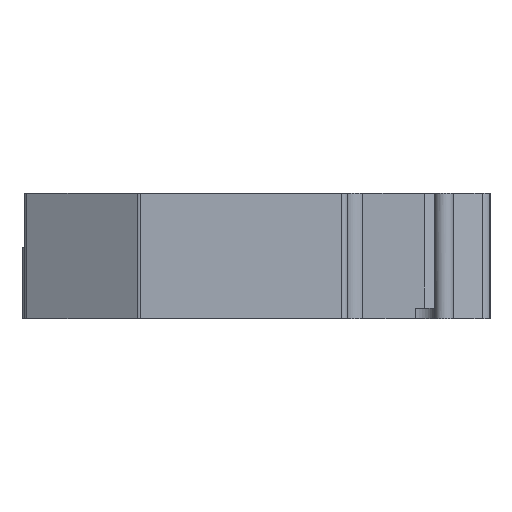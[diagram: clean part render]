
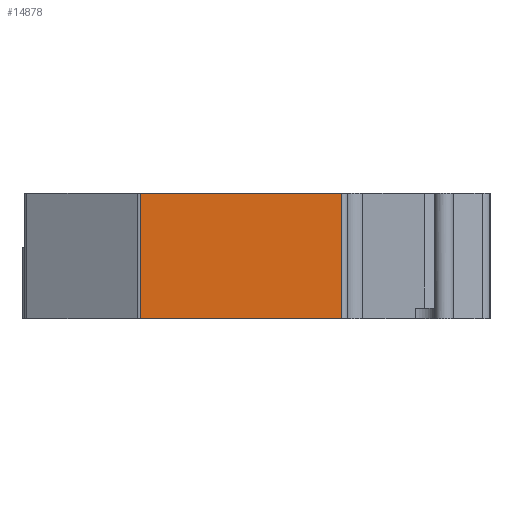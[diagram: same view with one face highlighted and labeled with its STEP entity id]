
A CAD part, left-side view. The second image highlights one B-rep face of the part: STEP entity #14878.
In plain terms, the highlighted planar face has unit normal (-1, 0, 0).
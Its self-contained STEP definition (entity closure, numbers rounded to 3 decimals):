
#312 = VERTEX_POINT ( 'NONE', #10745 ) ;
#1611 = EDGE_CURVE ( 'NONE', #1730, #6298, #16754, .T. ) ;
#1730 = VERTEX_POINT ( 'NONE', #2367 ) ;
#2367 = CARTESIAN_POINT ( 'NONE',  ( -51.7, -11.134, 12. ) ) ;
#2561 = EDGE_LOOP ( 'NONE', ( #19989, #18713, #7397, #6781 ) ) ;
#2665 = LINE ( 'NONE', #24184, #20798 ) ;
#3014 = LINE ( 'NONE', #11150, #10138 ) ;
#3360 = DIRECTION ( 'NONE',  ( 0., -1., 0. ) ) ;
#3631 = CARTESIAN_POINT ( 'NONE',  ( -51.7, -11.134, 12. ) ) ;
#4948 = DIRECTION ( 'NONE',  ( 0., -1., 0. ) ) ;
#5667 = DIRECTION ( 'NONE',  ( 0., 0., -1. ) ) ;
#6298 = VERTEX_POINT ( 'NONE', #9382 ) ;
#6392 = CARTESIAN_POINT ( 'NONE',  ( -51.7, -11., 12. ) ) ;
#6768 = PLANE ( 'NONE',  #9045 ) ;
#6781 = ORIENTED_EDGE ( 'NONE', *, *, #1611, .T. ) ;
#7397 = ORIENTED_EDGE ( 'NONE', *, *, #11054, .F. ) ;
#9045 = AXIS2_PLACEMENT_3D ( 'NONE', #6392, #14886, #15071 ) ;
#9382 = CARTESIAN_POINT ( 'NONE',  ( -51.7, -11.134, 0. ) ) ;
#10138 = VECTOR ( 'NONE', #4948, 1000. ) ;
#10745 = CARTESIAN_POINT ( 'NONE',  ( -51.7, -30.5, 0. ) ) ;
#11054 = EDGE_CURVE ( 'NONE', #1730, #14254, #2665, .T. ) ;
#11150 = CARTESIAN_POINT ( 'NONE',  ( -51.7, -11., 0. ) ) ;
#11241 = VECTOR ( 'NONE', #5667, 1000. ) ;
#14254 = VERTEX_POINT ( 'NONE', #24206 ) ;
#14878 = ADVANCED_FACE ( 'NONE', ( #15225 ), #6768, .F. ) ;
#14886 = DIRECTION ( 'NONE',  ( 1., 0., 0. ) ) ;
#15071 = DIRECTION ( 'NONE',  ( 0., 1., 0. ) ) ;
#15101 = LINE ( 'NONE', #23993, #16031 ) ;
#15225 = FACE_OUTER_BOUND ( 'NONE', #2561, .T. ) ;
#16031 = VECTOR ( 'NONE', #26084, 1000. ) ;
#16754 = LINE ( 'NONE', #3631, #11241 ) ;
#18713 = ORIENTED_EDGE ( 'NONE', *, *, #23542, .T. ) ;
#19989 = ORIENTED_EDGE ( 'NONE', *, *, #24299, .T. ) ;
#20798 = VECTOR ( 'NONE', #3360, 1000. ) ;
#23542 = EDGE_CURVE ( 'NONE', #312, #14254, #15101, .T. ) ;
#23993 = CARTESIAN_POINT ( 'NONE',  ( -51.7, -30.5, 12. ) ) ;
#24184 = CARTESIAN_POINT ( 'NONE',  ( -51.7, -11., 12. ) ) ;
#24206 = CARTESIAN_POINT ( 'NONE',  ( -51.7, -30.5, 12. ) ) ;
#24299 = EDGE_CURVE ( 'NONE', #6298, #312, #3014, .T. ) ;
#26084 = DIRECTION ( 'NONE',  ( 0., 0., 1. ) ) ;
